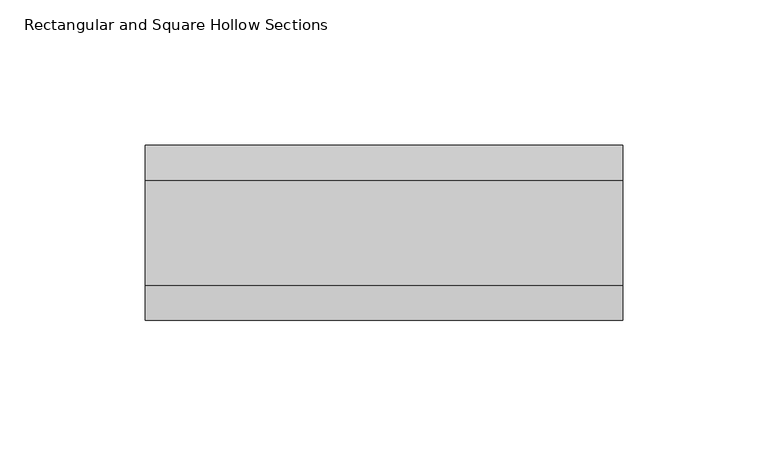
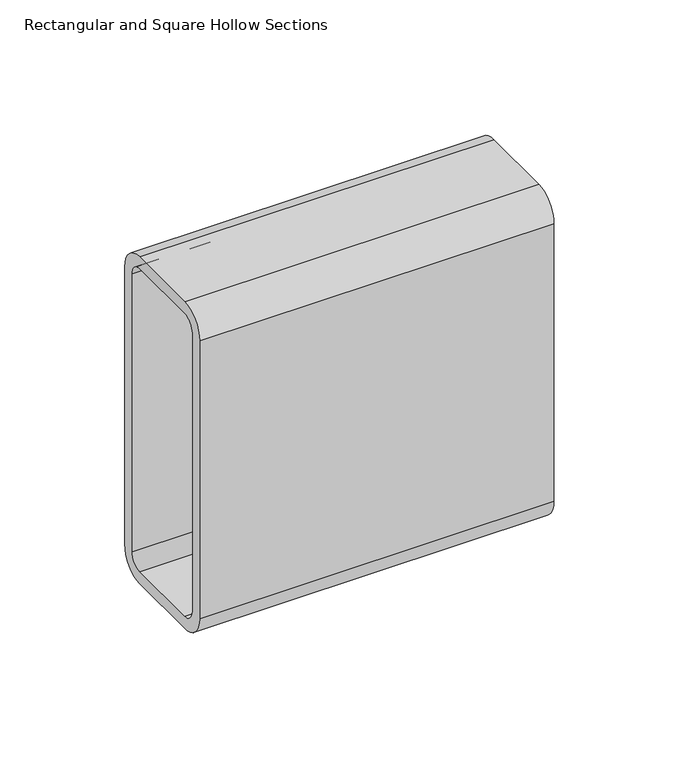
"""IFC4 building model written with IfcOpenShell, lengths in millimetres: beam geometry, Rectangular and Square Hollow Sections : TREC160x60x6."""

from ifc_helpers import new_model, si_unit, point, frame, frame_2d, origin, place, context, project, spatial, polyline, circle_curve, trimmed, segment, composite_curve, outline, extrude, source, transform, mapped, element, save


def rectangular_and_square_hollow_sections_3e7aac3e(model_context):
    return source(origin(), model_context, "Body", "SweptSolid", [
        extrude(outline(composite_curve([segment(polyline([(30.0, 68.0), (30.0, -68.0)]), True, "CONTINUOUS"), segment(trimmed(circle_curve(frame_2d((18.0, -68.0)), 12.0), [point((30.0, -68.0))], [point((18.0, -80.0))], False, "CARTESIAN"), True, "CONTINUOUS"), segment(polyline([(18.0, -80.0), (-18.0, -80.0)]), True, "CONTINUOUS"), segment(trimmed(circle_curve(frame_2d((-18.0, -68.0)), 12.0), [point((-18.0, -80.0))], [point((-30.0, -68.0))], False, "CARTESIAN"), True, "CONTINUOUS"), segment(polyline([(-30.0, -68.0), (-30.0, 68.0)]), True, "CONTINUOUS"), segment(trimmed(circle_curve(frame_2d((-18.0, 68.0)), 12.0), [point((-30.0, 68.0))], [point((-18.0, 80.0))], False, "CARTESIAN"), True, "CONTINUOUS"), segment(polyline([(-18.0, 80.0), (18.0, 80.0)]), True, "CONTINUOUS"), segment(trimmed(circle_curve(frame_2d((18.0, 68.0)), 12.0), [point((18.0, 80.0))], [point((30.0, 68.0))], False, "CARTESIAN"), True, "CONTINUOUS")], self_intersect=False), holes=[composite_curve([segment(trimmed(circle_curve(frame_2d((-18.0, 68.0)), 6.0), [point((-18.0, 74.0))], [point((-24.0, 68.0))], True, "CARTESIAN"), True, "CONTINUOUS"), segment(polyline([(-24.0, 68.0), (-24.0, -68.0)]), True, "CONTINUOUS"), segment(trimmed(circle_curve(frame_2d((-18.0, -68.0)), 6.0), [point((-24.0, -68.0))], [point((-18.0, -74.0))], True, "CARTESIAN"), True, "CONTINUOUS"), segment(polyline([(-18.0, -74.0), (18.0, -74.0)]), True, "CONTINUOUS"), segment(trimmed(circle_curve(frame_2d((18.0, -68.0)), 6.0), [point((18.0, -74.0))], [point((24.0, -68.0))], True, "CARTESIAN"), True, "CONTINUOUS"), segment(polyline([(24.0, -68.0), (24.0, 68.0)]), True, "CONTINUOUS"), segment(trimmed(circle_curve(frame_2d((18.0, 68.0)), 6.0), [point((24.0, 68.0))], [point((18.0, 74.0))], True, "CARTESIAN"), True, "CONTINUOUS"), segment(polyline([(18.0, 74.0), (-18.0, 74.0)]), True, "CONTINUOUS")], self_intersect=False)]), frame((-82.0, 0.0, 0.0), z_axis=(1.0, 0.0, 0.0), x_axis=(0.0, 1.0, 0.0)), (0.0, 0.0, 1.0), 164.0),
    ])


if __name__ == "__main__":
    model = new_model("IFC4")
    model_context = context("Model", 3, world=origin())
    ifc_project = project(units=[si_unit("LENGTHUNIT", "METRE", prefix="MILLI")], contexts=[model_context])
    site = spatial("IfcSite", under=ifc_project)
    building = spatial("IfcBuilding", under=site)
    placement = place(None, origin())
    rectangular_and_square_hollow_sections_shape = rectangular_and_square_hollow_sections_3e7aac3e(model_context)
    element("IfcBeam", 1, ObjectType="Rectangular and Square Hollow Sections : TREC160x60x6", at=placement, inside=building, context=model_context, shape_type="MappedRepresentation", body=[
        mapped(rectangular_and_square_hollow_sections_shape, transform((0.0, 0.0, 0.0), x_axis=(1.0, 0.0, 0.0), y_axis=(0.0, 1.0, 0.0), z_axis=(0.0, 0.0, 1.0))),
    ])
    save(model, "model.ifc")
